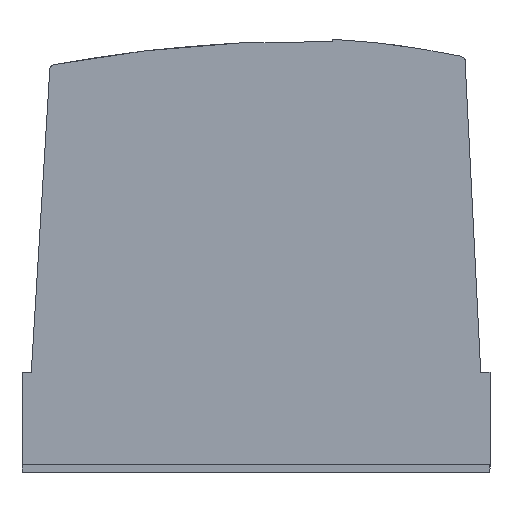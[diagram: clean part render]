
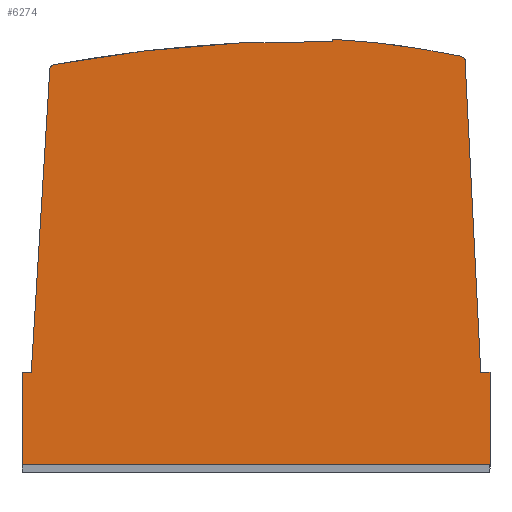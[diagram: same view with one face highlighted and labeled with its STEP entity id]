
A CAD part, top view. The second image highlights one B-rep face of the part: STEP entity #6274.
In plain terms, the highlighted planar face has unit normal (0, 0, 1).
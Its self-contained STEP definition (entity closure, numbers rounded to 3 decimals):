
#32 = LINE ( 'NONE', #5397, #1010 ) ;
#71 = CARTESIAN_POINT ( 'NONE',  ( 34.122, 108.175, 178. ) ) ;
#81 = DIRECTION ( 'NONE',  ( -1., 0., 0. ) ) ;
#112 = CARTESIAN_POINT ( 'NONE',  ( -136.146, -74.567, 178. ) ) ;
#131 = VECTOR ( 'NONE', #5307, 1000. ) ;
#243 = DIRECTION ( 'NONE',  ( 0., 0., 1. ) ) ;
#254 = VERTEX_POINT ( 'NONE', #1814 ) ;
#285 = CARTESIAN_POINT ( 'NONE',  ( 9.641, -125.567, 178. ) ) ;
#289 = VERTEX_POINT ( 'NONE', #6365 ) ;
#294 = CARTESIAN_POINT ( 'NONE',  ( 9.641, -125.567, 178. ) ) ;
#316 = DIRECTION ( 'NONE',  ( 1., 0., 0. ) ) ;
#358 = DIRECTION ( 'NONE',  ( 0., 0., 1. ) ) ;
#387 = CARTESIAN_POINT ( 'NONE',  ( -136.146, -74.567, 178. ) ) ;
#559 = CARTESIAN_POINT ( 'NONE',  ( 9.641, -125.567, 178. ) ) ;
#571 = PLANE ( 'NONE',  #2767 ) ;
#663 = EDGE_CURVE ( 'NONE', #2348, #254, #3463, .T. ) ;
#694 = DIRECTION ( 'NONE',  ( -1., 0., 0. ) ) ;
#727 = DIRECTION ( 'NONE',  ( 1., 0., 0. ) ) ;
#918 = CIRCLE ( 'NONE', #4870, 0.361 ) ;
#920 = EDGE_CURVE ( 'NONE', #5645, #3572, #3377, .T. ) ;
#935 = AXIS2_PLACEMENT_3D ( 'NONE', #6798, #4046, #727 ) ;
#960 = CARTESIAN_POINT ( 'NONE',  ( 9.641, -350.081, 178. ) ) ;
#1010 = VECTOR ( 'NONE', #2648, 1000. ) ;
#1029 = CARTESIAN_POINT ( 'NONE',  ( -99.478, -125.567, 178. ) ) ;
#1054 = VERTEX_POINT ( 'NONE', #4528 ) ;
#1179 = ORIENTED_EDGE ( 'NONE', *, *, #4406, .T. ) ;
#1189 = AXIS2_PLACEMENT_3D ( 'NONE', #2476, #243, #6431 ) ;
#1233 = ORIENTED_EDGE ( 'NONE', *, *, #4615, .T. ) ;
#1252 = DIRECTION ( 'NONE',  ( -0.061, -0.998, 0. ) ) ;
#1266 = ORIENTED_EDGE ( 'NONE', *, *, #5021, .T. ) ;
#1272 = CARTESIAN_POINT ( 'NONE',  ( 107.173, 96.677, 178. ) ) ;
#1339 = VERTEX_POINT ( 'NONE', #1272 ) ;
#1394 = FACE_OUTER_BOUND ( 'NONE', #5027, .T. ) ;
#1411 = ORIENTED_EDGE ( 'NONE', *, *, #1700, .T. ) ;
#1501 = EDGE_CURVE ( 'NONE', #1339, #3196, #3822, .T. ) ;
#1509 = DIRECTION ( 'NONE',  ( -1., 0., 0. ) ) ;
#1570 = CARTESIAN_POINT ( 'NONE',  ( 120.854, -74.567, 178. ) ) ;
#1700 = EDGE_CURVE ( 'NONE', #7016, #3609, #2555, .T. ) ;
#1720 = CARTESIAN_POINT ( 'NONE',  ( 33.792, 107.239, 178. ) ) ;
#1814 = CARTESIAN_POINT ( 'NONE',  ( 120.854, -125.567, 178. ) ) ;
#1818 = EDGE_CURVE ( 'NONE', #5279, #4325, #4439, .T. ) ;
#1929 = VECTOR ( 'NONE', #6721, 1000. ) ;
#1958 = CARTESIAN_POINT ( 'NONE',  ( 33.907, 106.897, 178. ) ) ;
#2211 = DIRECTION ( 'NONE',  ( -1., 0., 0. ) ) ;
#2233 = ORIENTED_EDGE ( 'NONE', *, *, #3742, .T. ) ;
#2242 = CARTESIAN_POINT ( 'NONE',  ( -136.146, -125.567, 178. ) ) ;
#2249 = ORIENTED_EDGE ( 'NONE', *, *, #6666, .T. ) ;
#2281 = CARTESIAN_POINT ( 'NONE',  ( 106.083, 96.762, 178. ) ) ;
#2348 = VERTEX_POINT ( 'NONE', #6091 ) ;
#2385 = AXIS2_PLACEMENT_3D ( 'NONE', #960, #358, #1509 ) ;
#2476 = CARTESIAN_POINT ( 'NONE',  ( 20.11, -652.976, 178. ) ) ;
#2481 = VECTOR ( 'NONE', #3212, 1000. ) ;
#2521 = ORIENTED_EDGE ( 'NONE', *, *, #1501, .T. ) ;
#2555 = LINE ( 'NONE', #2790, #1929 ) ;
#2648 = DIRECTION ( 'NONE',  ( -0.05, 0.999, 0. ) ) ;
#2690 = ORIENTED_EDGE ( 'NONE', *, *, #1818, .T. ) ;
#2767 = AXIS2_PLACEMENT_3D ( 'NONE', #6757, #2846, #2211 ) ;
#2790 = CARTESIAN_POINT ( 'NONE',  ( 34.111, 107.07, 178. ) ) ;
#2842 = CARTESIAN_POINT ( 'NONE',  ( 34.111, 107.07, 178. ) ) ;
#2846 = DIRECTION ( 'NONE',  ( 0., 0., -1. ) ) ;
#3020 = LINE ( 'NONE', #294, #3288 ) ;
#3101 = EDGE_CURVE ( 'NONE', #254, #3505, #5823, .T. ) ;
#3162 = EDGE_CURVE ( 'NONE', #6581, #7016, #3354, .T. ) ;
#3177 = LINE ( 'NONE', #4174, #131 ) ;
#3196 = VERTEX_POINT ( 'NONE', #5515 ) ;
#3212 = DIRECTION ( 'NONE',  ( 1., 0., 0. ) ) ;
#3260 = CIRCLE ( 'NONE', #1189, 759.998 ) ;
#3288 = VECTOR ( 'NONE', #316, 1000. ) ;
#3354 = CIRCLE ( 'NONE', #2385, 458.909 ) ;
#3365 = DIRECTION ( 'NONE',  ( -1., 0., 0. ) ) ;
#3377 = LINE ( 'NONE', #5377, #6822 ) ;
#3410 = CARTESIAN_POINT ( 'NONE',  ( -136.146, -74.567, 178. ) ) ;
#3463 = LINE ( 'NONE', #7332, #3644 ) ;
#3505 = VERTEX_POINT ( 'NONE', #1570 ) ;
#3544 = LINE ( 'NONE', #3410, #7155 ) ;
#3572 = VERTEX_POINT ( 'NONE', #3904 ) ;
#3609 = VERTEX_POINT ( 'NONE', #2842 ) ;
#3627 = CIRCLE ( 'NONE', #935, 4.709 ) ;
#3644 = VECTOR ( 'NONE', #6266, 1000. ) ;
#3668 = ORIENTED_EDGE ( 'NONE', *, *, #6596, .T. ) ;
#3669 = EDGE_CURVE ( 'NONE', #5547, #1339, #32, .T. ) ;
#3742 = EDGE_CURVE ( 'NONE', #6574, #5252, #3260, .T. ) ;
#3822 = CIRCLE ( 'NONE', #6466, 1.094 ) ;
#3828 = EDGE_CURVE ( 'NONE', #289, #1054, #5375, .T. ) ;
#3840 = CIRCLE ( 'NONE', #5383, 3.013 ) ;
#3892 = VECTOR ( 'NONE', #1252, 1000. ) ;
#3904 = CARTESIAN_POINT ( 'NONE',  ( -86.203, -125.567, 178. ) ) ;
#3907 = CARTESIAN_POINT ( 'NONE',  ( -118.459, 94.282, 178. ) ) ;
#3917 = EDGE_CURVE ( 'NONE', #3609, #6574, #918, .T. ) ;
#3952 = VERTEX_POINT ( 'NONE', #4391 ) ;
#4036 = ORIENTED_EDGE ( 'NONE', *, *, #3669, .T. ) ;
#4046 = DIRECTION ( 'NONE',  ( 0., 0., 1. ) ) ;
#4087 = VECTOR ( 'NONE', #6525, 1000. ) ;
#4174 = CARTESIAN_POINT ( 'NONE',  ( 115.746, -74.567, 178. ) ) ;
#4226 = ORIENTED_EDGE ( 'NONE', *, *, #3917, .T. ) ;
#4325 = VERTEX_POINT ( 'NONE', #2242 ) ;
#4391 = CARTESIAN_POINT ( 'NONE',  ( 91.126, -125.567, 178. ) ) ;
#4395 = ORIENTED_EDGE ( 'NONE', *, *, #3162, .T. ) ;
#4406 = EDGE_CURVE ( 'NONE', #5252, #289, #3840, .T. ) ;
#4439 = LINE ( 'NONE', #387, #4087 ) ;
#4440 = CARTESIAN_POINT ( 'NONE',  ( 115.746, -74.567, 178. ) ) ;
#4466 = ORIENTED_EDGE ( 'NONE', *, *, #663, .T. ) ;
#4528 = CARTESIAN_POINT ( 'NONE',  ( -131.041, -74.567, 178. ) ) ;
#4615 = EDGE_CURVE ( 'NONE', #3572, #3952, #3020, .T. ) ;
#4838 = ORIENTED_EDGE ( 'NONE', *, *, #6975, .T. ) ;
#4840 = DIRECTION ( 'NONE',  ( 1., 0., 0. ) ) ;
#4870 = AXIS2_PLACEMENT_3D ( 'NONE', #1720, #5144, #81 ) ;
#5006 = ORIENTED_EDGE ( 'NONE', *, *, #3101, .T. ) ;
#5014 = ORIENTED_EDGE ( 'NONE', *, *, #3828, .T. ) ;
#5021 = EDGE_CURVE ( 'NONE', #3952, #2348, #5672, .T. ) ;
#5027 = EDGE_LOOP ( 'NONE', ( #2690, #5438, #5079, #1233, #1266, #4466, #5006, #2249, #4036, #2521, #3668, #4395, #1411, #4226, #2233, #1179, #5014, #4838 ) ) ;
#5079 = ORIENTED_EDGE ( 'NONE', *, *, #920, .T. ) ;
#5144 = DIRECTION ( 'NONE',  ( 0., 0., -1. ) ) ;
#5200 = CARTESIAN_POINT ( 'NONE',  ( -117.91, 91.32, 178. ) ) ;
#5231 = CARTESIAN_POINT ( 'NONE',  ( -120.892, 91.746, 178. ) ) ;
#5252 = VERTEX_POINT ( 'NONE', #3907 ) ;
#5279 = VERTEX_POINT ( 'NONE', #112 ) ;
#5307 = DIRECTION ( 'NONE',  ( -1., 0., 0. ) ) ;
#5375 = LINE ( 'NONE', #5231, #3892 ) ;
#5377 = CARTESIAN_POINT ( 'NONE',  ( 9.641, -125.567, 178. ) ) ;
#5383 = AXIS2_PLACEMENT_3D ( 'NONE', #5200, #5866, #694 ) ;
#5397 = CARTESIAN_POINT ( 'NONE',  ( 107.173, 96.677, 178. ) ) ;
#5438 = ORIENTED_EDGE ( 'NONE', *, *, #6604, .T. ) ;
#5476 = VECTOR ( 'NONE', #6848, 1000. ) ;
#5515 = CARTESIAN_POINT ( 'NONE',  ( 106.96, 97.415, 178. ) ) ;
#5547 = VERTEX_POINT ( 'NONE', #4440 ) ;
#5645 = VERTEX_POINT ( 'NONE', #1029 ) ;
#5672 = LINE ( 'NONE', #285, #2481 ) ;
#5741 = VECTOR ( 'NONE', #6618, 1000. ) ;
#5823 = LINE ( 'NONE', #7247, #5741 ) ;
#5852 = DIRECTION ( 'NONE',  ( 0., 0., 1. ) ) ;
#5866 = DIRECTION ( 'NONE',  ( 0., 0., 1. ) ) ;
#6091 = CARTESIAN_POINT ( 'NONE',  ( 104.407, -125.567, 178. ) ) ;
#6266 = DIRECTION ( 'NONE',  ( 1., 0., 0. ) ) ;
#6274 = ADVANCED_FACE ( 'NONE', ( #1394 ), #571, .F. ) ;
#6365 = CARTESIAN_POINT ( 'NONE',  ( -120.892, 91.746, 178. ) ) ;
#6431 = DIRECTION ( 'NONE',  ( -1., 0., 0. ) ) ;
#6446 = CARTESIAN_POINT ( 'NONE',  ( 104.542, 98.908, 178. ) ) ;
#6466 = AXIS2_PLACEMENT_3D ( 'NONE', #2281, #5852, #7162 ) ;
#6525 = DIRECTION ( 'NONE',  ( 0., -1., 0. ) ) ;
#6574 = VERTEX_POINT ( 'NONE', #1958 ) ;
#6581 = VERTEX_POINT ( 'NONE', #6446 ) ;
#6596 = EDGE_CURVE ( 'NONE', #3196, #6581, #3627, .T. ) ;
#6604 = EDGE_CURVE ( 'NONE', #4325, #5645, #7330, .T. ) ;
#6618 = DIRECTION ( 'NONE',  ( 0., 1., 0. ) ) ;
#6666 = EDGE_CURVE ( 'NONE', #3505, #5547, #3177, .T. ) ;
#6721 = DIRECTION ( 'NONE',  ( -0.01, -1., 0. ) ) ;
#6757 = CARTESIAN_POINT ( 'NONE',  ( 9.641, -350.081, 178. ) ) ;
#6798 = CARTESIAN_POINT ( 'NONE',  ( 103.393, 94.342, 178. ) ) ;
#6822 = VECTOR ( 'NONE', #4840, 1000. ) ;
#6848 = DIRECTION ( 'NONE',  ( 1., 0., 0. ) ) ;
#6975 = EDGE_CURVE ( 'NONE', #1054, #5279, #3544, .T. ) ;
#7016 = VERTEX_POINT ( 'NONE', #71 ) ;
#7155 = VECTOR ( 'NONE', #3365, 1000. ) ;
#7162 = DIRECTION ( 'NONE',  ( 1., 0., 0. ) ) ;
#7247 = CARTESIAN_POINT ( 'NONE',  ( 120.854, -74.567, 178. ) ) ;
#7330 = LINE ( 'NONE', #559, #5476 ) ;
#7332 = CARTESIAN_POINT ( 'NONE',  ( 9.641, -125.567, 178. ) ) ;
